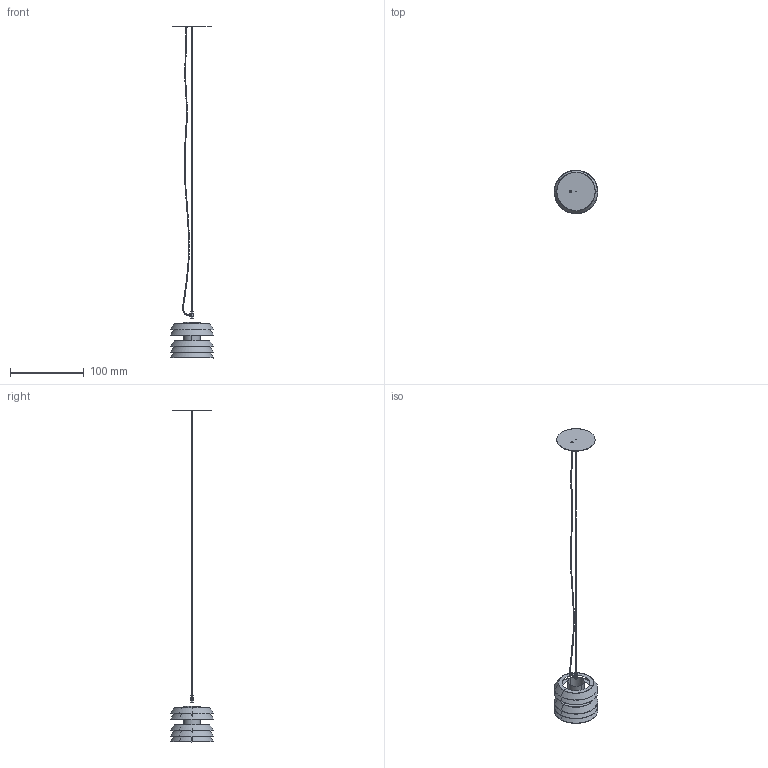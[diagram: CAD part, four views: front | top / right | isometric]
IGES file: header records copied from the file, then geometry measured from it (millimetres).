
Global section: file name: Maija 15; native system: Unknown; preprocessor: BodyObjectToATFToIges; author: Autodesk 3ds Max; organization: Autodesk; date: 20180123.152215; units: centimetre
Bounding box: 59.02 x 59.02 x 450.63 mm (x, y, z)
Volume: 1676.1 mm3; surface area: 30832.2 mm2
Topology: 2 solids, 2 shells, 129 faces, 794 edges, 768 vertices
Faces by surface type: revolution 79, bspline 50
